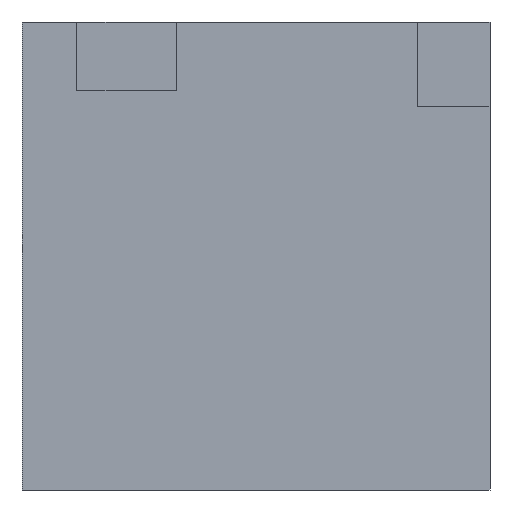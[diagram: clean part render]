
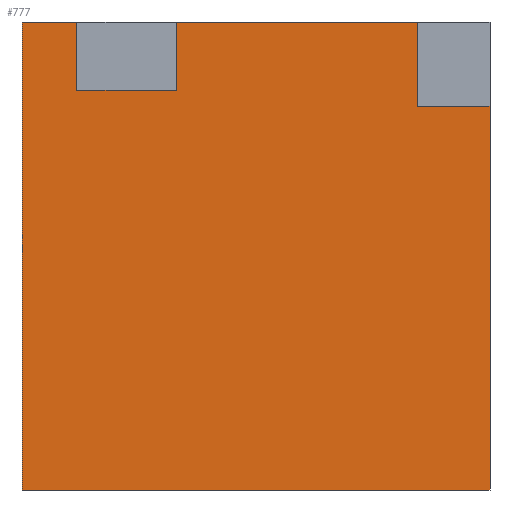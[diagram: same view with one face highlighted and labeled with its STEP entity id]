
A CAD part, front view. The second image highlights one B-rep face of the part: STEP entity #777.
In plain terms, the highlighted planar face has unit normal (0, -1, 0).
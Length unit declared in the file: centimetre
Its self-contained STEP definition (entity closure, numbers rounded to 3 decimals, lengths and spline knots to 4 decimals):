
#3 = VECTOR ( 'NONE', #597, 100. ) ;
#9 = CARTESIAN_POINT ( 'NONE',  ( 845.4641, 0., 820.4851 ) ) ;
#14 = ORIENTED_EDGE ( 'NONE', *, *, #702, .F. ) ;
#24 = LINE ( 'NONE', #229, #270 ) ;
#26 = DIRECTION ( 'NONE',  ( 1., 0., 0. ) ) ;
#40 = ORIENTED_EDGE ( 'NONE', *, *, #382, .F. ) ;
#43 = ORIENTED_EDGE ( 'NONE', *, *, #405, .F. ) ;
#56 = CARTESIAN_POINT ( 'NONE',  ( 845.4641, 0., 820.4851 ) ) ;
#79 = VECTOR ( 'NONE', #26, 100. ) ;
#80 = CARTESIAN_POINT ( 'NONE',  ( 0., 0., 1000. ) ) ;
#84 = FACE_OUTER_BOUND ( 'NONE', #723, .T. ) ;
#85 = EDGE_CURVE ( 'NONE', #267, #434, #847, .T. ) ;
#95 = EDGE_CURVE ( 'NONE', #537, #443, #655, .T. ) ;
#106 = CARTESIAN_POINT ( 'NONE',  ( 1000., 0., 820.4851 ) ) ;
#114 = ORIENTED_EDGE ( 'NONE', *, *, #279, .T. ) ;
#126 = VERTEX_POINT ( 'NONE', #291 ) ;
#135 = EDGE_CURVE ( 'NONE', #126, #434, #24, .T. ) ;
#150 = LINE ( 'NONE', #720, #79 ) ;
#178 = LINE ( 'NONE', #311, #460 ) ;
#222 = DIRECTION ( 'NONE',  ( 1., 0., 0. ) ) ;
#229 = CARTESIAN_POINT ( 'NONE',  ( 0., 0., 0. ) ) ;
#243 = ORIENTED_EDGE ( 'NONE', *, *, #85, .F. ) ;
#267 = VERTEX_POINT ( 'NONE', #106 ) ;
#270 = VECTOR ( 'NONE', #222, 100. ) ;
#279 = EDGE_CURVE ( 'NONE', #718, #287, #178, .T. ) ;
#287 = VERTEX_POINT ( 'NONE', #330 ) ;
#289 = EDGE_CURVE ( 'NONE', #443, #267, #453, .T. ) ;
#291 = CARTESIAN_POINT ( 'NONE',  ( 0., 0., 0. ) ) ;
#296 = CARTESIAN_POINT ( 'NONE',  ( 1000., 0., 1000. ) ) ;
#311 = CARTESIAN_POINT ( 'NONE',  ( 117.02, 0., 854.3972 ) ) ;
#319 = CARTESIAN_POINT ( 'NONE',  ( 117.02, 0., 854.3972 ) ) ;
#326 = DIRECTION ( 'NONE',  ( 1., 0., 0. ) ) ;
#327 = LINE ( 'NONE', #745, #477 ) ;
#329 = LINE ( 'NONE', #780, #832 ) ;
#330 = CARTESIAN_POINT ( 'NONE',  ( 117.02, 0., 1000. ) ) ;
#354 = DIRECTION ( 'NONE',  ( 0., 0., -1. ) ) ;
#382 = EDGE_CURVE ( 'NONE', #801, #537, #327, .T. ) ;
#405 = EDGE_CURVE ( 'NONE', #718, #886, #739, .T. ) ;
#418 = PLANE ( 'NONE',  #564 ) ;
#434 = VERTEX_POINT ( 'NONE', #467 ) ;
#442 = VECTOR ( 'NONE', #841, 100. ) ;
#443 = VERTEX_POINT ( 'NONE', #9 ) ;
#453 = LINE ( 'NONE', #56, #578 ) ;
#460 = VECTOR ( 'NONE', #744, 100. ) ;
#467 = CARTESIAN_POINT ( 'NONE',  ( 1000., 0., 0. ) ) ;
#477 = VECTOR ( 'NONE', #541, 100. ) ;
#493 = CARTESIAN_POINT ( 'NONE',  ( 0., 0., 1000. ) ) ;
#508 = EDGE_CURVE ( 'NONE', #816, #126, #882, .T. ) ;
#511 = CARTESIAN_POINT ( 'NONE',  ( 117.02, 0., 854.3972 ) ) ;
#537 = VERTEX_POINT ( 'NONE', #558 ) ;
#541 = DIRECTION ( 'NONE',  ( 1., 0., 0. ) ) ;
#543 = CARTESIAN_POINT ( 'NONE',  ( 330.2751, 0., 1000. ) ) ;
#558 = CARTESIAN_POINT ( 'NONE',  ( 845.4641, 0., 1000. ) ) ;
#564 = AXIS2_PLACEMENT_3D ( 'NONE', #493, #619, #699 ) ;
#568 = DIRECTION ( 'NONE',  ( 0., 0., -1. ) ) ;
#578 = VECTOR ( 'NONE', #326, 100. ) ;
#590 = VECTOR ( 'NONE', #568, 100. ) ;
#597 = DIRECTION ( 'NONE',  ( 1., 0., 0. ) ) ;
#619 = DIRECTION ( 'NONE',  ( 0., 1., 0. ) ) ;
#624 = ORIENTED_EDGE ( 'NONE', *, *, #864, .F. ) ;
#631 = ORIENTED_EDGE ( 'NONE', *, *, #289, .F. ) ;
#634 = VECTOR ( 'NONE', #354, 100. ) ;
#647 = CARTESIAN_POINT ( 'NONE',  ( 845.4641, 0., 820.4851 ) ) ;
#655 = LINE ( 'NONE', #647, #442 ) ;
#699 = DIRECTION ( 'NONE',  ( 0., 0., 1. ) ) ;
#702 = EDGE_CURVE ( 'NONE', #886, #801, #329, .T. ) ;
#718 = VERTEX_POINT ( 'NONE', #511 ) ;
#720 = CARTESIAN_POINT ( 'NONE',  ( 0., 0., 1000. ) ) ;
#723 = EDGE_LOOP ( 'NONE', ( #43, #114, #624, #742, #820, #243, #631, #881, #40, #14 ) ) ;
#739 = LINE ( 'NONE', #319, #3 ) ;
#742 = ORIENTED_EDGE ( 'NONE', *, *, #508, .T. ) ;
#744 = DIRECTION ( 'NONE',  ( 0., 0., 1. ) ) ;
#745 = CARTESIAN_POINT ( 'NONE',  ( 0., 0., 1000. ) ) ;
#777 = ADVANCED_FACE ( 'NONE', ( #84 ), #418, .F. ) ;
#780 = CARTESIAN_POINT ( 'NONE',  ( 330.2751, 0., 854.3972 ) ) ;
#801 = VERTEX_POINT ( 'NONE', #543 ) ;
#805 = CARTESIAN_POINT ( 'NONE',  ( 0., 0., 1000. ) ) ;
#816 = VERTEX_POINT ( 'NONE', #805 ) ;
#820 = ORIENTED_EDGE ( 'NONE', *, *, #135, .T. ) ;
#832 = VECTOR ( 'NONE', #872, 100. ) ;
#841 = DIRECTION ( 'NONE',  ( 0., 0., -1. ) ) ;
#847 = LINE ( 'NONE', #296, #590 ) ;
#851 = CARTESIAN_POINT ( 'NONE',  ( 330.2751, 0., 854.3972 ) ) ;
#864 = EDGE_CURVE ( 'NONE', #816, #287, #150, .T. ) ;
#872 = DIRECTION ( 'NONE',  ( 0., 0., 1. ) ) ;
#881 = ORIENTED_EDGE ( 'NONE', *, *, #95, .F. ) ;
#882 = LINE ( 'NONE', #80, #634 ) ;
#886 = VERTEX_POINT ( 'NONE', #851 ) ;
